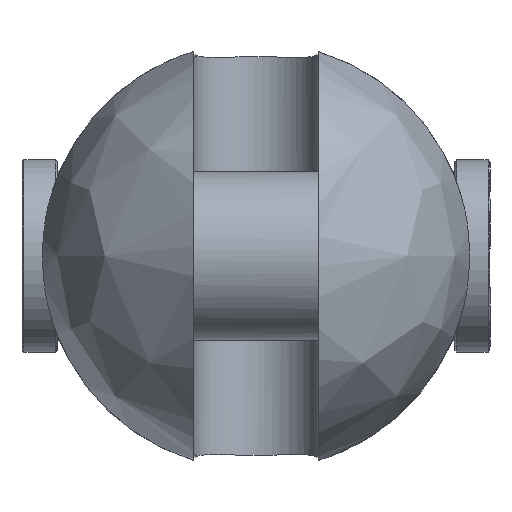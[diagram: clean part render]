
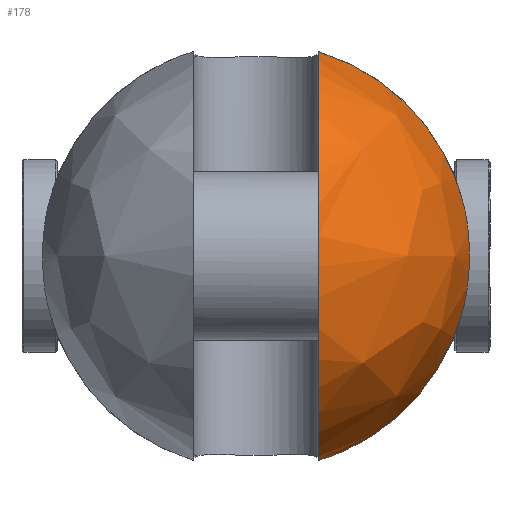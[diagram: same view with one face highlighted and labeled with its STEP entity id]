
A CAD part, left-side view. The second image highlights one B-rep face of the part: STEP entity #178.
In plain terms, the highlighted free-form (B-spline) face has degree [2, 2] with [9, 5] control points.
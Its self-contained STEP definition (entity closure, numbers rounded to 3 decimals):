
#178=ADVANCED_FACE('',(#318),#2404,.T.);
#318=FACE_OUTER_BOUND('',#478,.T.);
#478=EDGE_LOOP('',(#1187,#1188,#1189,#1190));
#1187=ORIENTED_EDGE('',*,*,#1570,.T.);
#1188=ORIENTED_EDGE('',*,*,#1594,.F.);
#1189=ORIENTED_EDGE('',*,*,#1606,.T.);
#1190=ORIENTED_EDGE('',*,*,#1586,.F.);
#1570=EDGE_CURVE('',#2237,#2236,#1972,.T.);
#1586=EDGE_CURVE('',#2237,#2249,#1982,.T.);
#1594=EDGE_CURVE('',#2256,#2236,#1983,.T.);
#1606=EDGE_CURVE('',#2256,#2249,#1779,.T.);
#1779=B_SPLINE_CURVE_WITH_KNOTS('',3,(#6098,#6099,#6100,#6101,#6102,#6103,
#6104,#6105,#6106,#6107,#6108,#6109,#6110,#6111),.UNSPECIFIED.,.F.,.F.,
(4,2,2,2,2,2,4),(0.,0.978,6.792,12.605,
18.419,24.233,25.211),.UNSPECIFIED.);
#1972=(
BOUNDED_CURVE()
B_SPLINE_CURVE(2,(#5874,#5875,#5876,#5877,#5878),.UNSPECIFIED.,.F.,.F.)
B_SPLINE_CURVE_WITH_KNOTS((3,2,3),(-163.672,-81.836,
0.),.UNSPECIFIED.)
CURVE()
GEOMETRIC_REPRESENTATION_ITEM()
RATIONAL_B_SPLINE_CURVE((1.,0.707,1.,0.707,1.))
REPRESENTATION_ITEM('')
);
#1982=(
BOUNDED_CURVE()
B_SPLINE_CURVE(2,(#5968,#5969,#5970),.UNSPECIFIED.,.F.,.F.)
B_SPLINE_CURVE_WITH_KNOTS((3,3),(0.,57.27),.UNSPECIFIED.)
CURVE()
GEOMETRIC_REPRESENTATION_ITEM()
RATIONAL_B_SPLINE_CURVE((1.,0.865,1.))
REPRESENTATION_ITEM('')
);
#1983=(
BOUNDED_CURVE()
B_SPLINE_CURVE(2,(#6025,#6026,#6027),.UNSPECIFIED.,.F.,.F.)
B_SPLINE_CURVE_WITH_KNOTS((3,3),(0.,57.27),.UNSPECIFIED.)
CURVE()
GEOMETRIC_REPRESENTATION_ITEM()
RATIONAL_B_SPLINE_CURVE((1.,0.865,1.))
REPRESENTATION_ITEM('')
);
#2236=VERTEX_POINT('',#5734);
#2237=VERTEX_POINT('',#5735);
#2249=VERTEX_POINT('',#5747);
#2256=VERTEX_POINT('',#5754);
#2404=(
BOUNDED_SURFACE()
B_SPLINE_SURFACE(2,2,((#5448,#5449,#5450,#5451,#5452),(#5453,#5454,#5455,
#5456,#5457),(#5458,#5459,#5460,#5461,#5462),(#5463,#5464,#5465,#5466,#5467),
(#5468,#5469,#5470,#5471,#5472),(#5473,#5474,#5475,#5476,#5477),(#5478,
#5479,#5480,#5481,#5482),(#5483,#5484,#5485,#5486,#5487),(#5488,#5489,#5490,
#5491,#5492)),.UNSPECIFIED.,.T.,.F.,.F.)
B_SPLINE_SURFACE_WITH_KNOTS((3,2,2,2,3),(3,2,3),(0.,85.608,171.217,
256.825,342.434),(0.,85.608,171.217),
 .UNSPECIFIED.)
GEOMETRIC_REPRESENTATION_ITEM()
RATIONAL_B_SPLINE_SURFACE(((1.,0.707,1.,0.707,1.),
(0.707,0.5,0.707,0.5,0.707),(1.,0.707,
1.,0.707,1.),(0.707,0.5,0.707,0.5,0.707),
(1.,0.707,1.,0.707,1.),(0.707,0.5,0.707,
0.5,0.707),(1.,0.707,1.,0.707,1.),(0.707,
0.5,0.707,0.5,0.707),(1.,0.707,1.,0.707,
1.)))
REPRESENTATION_ITEM('')
SURFACE()
);
#5448=CARTESIAN_POINT('',(-77.,0.,0.));
#5449=CARTESIAN_POINT('',(-77.,54.5,0.));
#5450=CARTESIAN_POINT('',(-22.5,54.5,0.));
#5451=CARTESIAN_POINT('',(32.,54.5,0.));
#5452=CARTESIAN_POINT('',(32.,0.,0.));
#5453=CARTESIAN_POINT('',(-77.,0.,0.));
#5454=CARTESIAN_POINT('',(-77.,54.5,54.5));
#5455=CARTESIAN_POINT('',(-22.5,54.5,54.5));
#5456=CARTESIAN_POINT('',(32.,54.5,54.5));
#5457=CARTESIAN_POINT('',(32.,0.,0.));
#5458=CARTESIAN_POINT('',(-77.,0.,0.));
#5459=CARTESIAN_POINT('',(-77.,0.,54.5));
#5460=CARTESIAN_POINT('',(-22.5,0.,54.5));
#5461=CARTESIAN_POINT('',(32.,0.,54.5));
#5462=CARTESIAN_POINT('',(32.,0.,0.));
#5463=CARTESIAN_POINT('',(-77.,0.,0.));
#5464=CARTESIAN_POINT('',(-77.,-54.5,54.5));
#5465=CARTESIAN_POINT('',(-22.5,-54.5,54.5));
#5466=CARTESIAN_POINT('',(32.,-54.5,54.5));
#5467=CARTESIAN_POINT('',(32.,0.,0.));
#5468=CARTESIAN_POINT('',(-77.,0.,0.));
#5469=CARTESIAN_POINT('',(-77.,-54.5,0.));
#5470=CARTESIAN_POINT('',(-22.5,-54.5,0.));
#5471=CARTESIAN_POINT('',(32.,-54.5,0.));
#5472=CARTESIAN_POINT('',(32.,0.,0.));
#5473=CARTESIAN_POINT('',(-77.,0.,0.));
#5474=CARTESIAN_POINT('',(-77.,-54.5,-54.5));
#5475=CARTESIAN_POINT('',(-22.5,-54.5,-54.5));
#5476=CARTESIAN_POINT('',(32.,-54.5,-54.5));
#5477=CARTESIAN_POINT('',(32.,0.,0.));
#5478=CARTESIAN_POINT('',(-77.,0.,0.));
#5479=CARTESIAN_POINT('',(-77.,0.,-54.5));
#5480=CARTESIAN_POINT('',(-22.5,0.,-54.5));
#5481=CARTESIAN_POINT('',(32.,0.,-54.5));
#5482=CARTESIAN_POINT('',(32.,0.,0.));
#5483=CARTESIAN_POINT('',(-77.,0.,0.));
#5484=CARTESIAN_POINT('',(-77.,54.5,-54.5));
#5485=CARTESIAN_POINT('',(-22.5,54.5,-54.5));
#5486=CARTESIAN_POINT('',(32.,54.5,-54.5));
#5487=CARTESIAN_POINT('',(32.,0.,0.));
#5488=CARTESIAN_POINT('',(-77.,0.,0.));
#5489=CARTESIAN_POINT('',(-77.,54.5,0.));
#5490=CARTESIAN_POINT('',(-22.5,54.5,0.));
#5491=CARTESIAN_POINT('',(32.,54.5,0.));
#5492=CARTESIAN_POINT('',(32.,0.,0.));
#5734=CARTESIAN_POINT('',(-22.5,-16.,-52.098));
#5735=CARTESIAN_POINT('',(-22.5,-16.,52.098));
#5747=CARTESIAN_POINT('',(-22.5,-53.162,12.));
#5754=CARTESIAN_POINT('',(-22.5,-53.162,-12.));
#5874=CARTESIAN_POINT('',(-22.5,-16.,52.098));
#5875=CARTESIAN_POINT('',(-74.598,-16.,52.098));
#5876=CARTESIAN_POINT('',(-74.598,-16.,0.));
#5877=CARTESIAN_POINT('',(-74.598,-16.,-52.098));
#5878=CARTESIAN_POINT('',(-22.5,-16.,-52.098));
#5968=CARTESIAN_POINT('',(-22.5,-16.,52.098));
#5969=CARTESIAN_POINT('',(-22.5,-46.205,42.822));
#5970=CARTESIAN_POINT('',(-22.5,-53.162,12.));
#6025=CARTESIAN_POINT('',(-22.5,-53.162,-12.));
#6026=CARTESIAN_POINT('',(-22.5,-46.205,-42.822));
#6027=CARTESIAN_POINT('',(-22.5,-16.,-52.098));
#6098=CARTESIAN_POINT('',(-22.5,-53.162,-12.));
#6099=CARTESIAN_POINT('',(-22.652,-53.227,-11.714));
#6100=CARTESIAN_POINT('',(-22.799,-53.289,-11.426));
#6101=CARTESIAN_POINT('',(-23.783,-53.704,-9.4));
#6102=CARTESIAN_POINT('',(-24.431,-53.974,-7.555));
#6103=CARTESIAN_POINT('',(-25.29,-54.331,-3.793));
#6104=CARTESIAN_POINT('',(-25.5,-54.417,-1.874));
#6105=CARTESIAN_POINT('',(-25.5,-54.417,1.874));
#6106=CARTESIAN_POINT('',(-25.29,-54.331,3.793));
#6107=CARTESIAN_POINT('',(-24.431,-53.974,7.555));
#6108=CARTESIAN_POINT('',(-23.783,-53.704,9.4));
#6109=CARTESIAN_POINT('',(-22.799,-53.289,11.426));
#6110=CARTESIAN_POINT('',(-22.652,-53.227,11.714));
#6111=CARTESIAN_POINT('',(-22.5,-53.162,12.));
